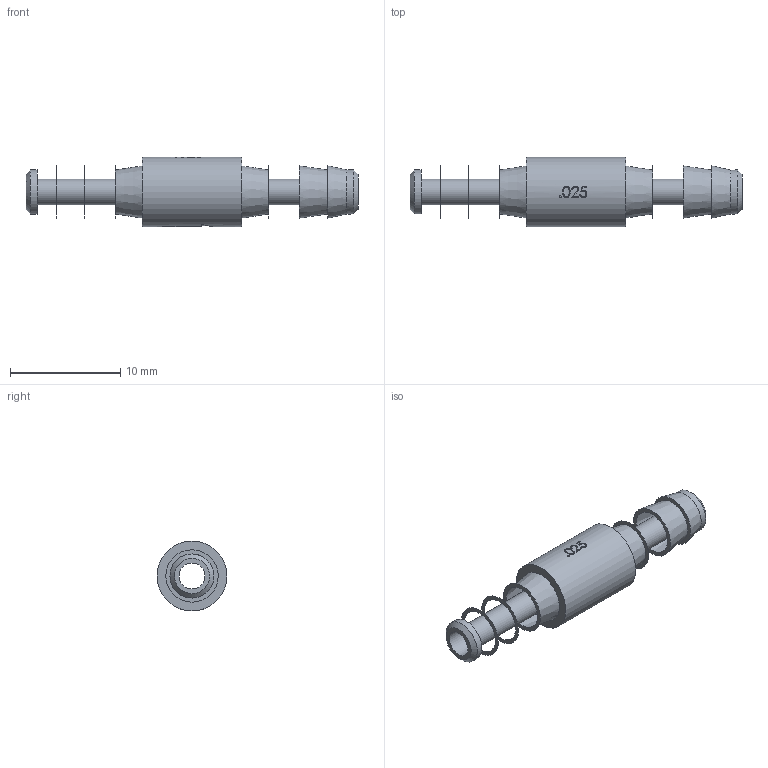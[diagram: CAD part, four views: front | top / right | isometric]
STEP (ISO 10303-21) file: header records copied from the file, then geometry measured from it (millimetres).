
FILE_DESCRIPTION(/* description */ ('SolidWorks IGES file using analytic representation for surfaces '),/* implementation_level */ '2;1');
FILE_NAME(/* name */ 'K:\Normteile INVENTOR\Air-Logic\Orifice restrictors\F-2815-251-B85.IGS.ipt.stp',/* time_stamp */ '2020-05-27T10:46:46+02:00',/* author */ ('cad'),/* organization */ (''),/* preprocessor_version */ 'ST-DEVELOPER v18',/* originating_system */ 'Autodesk Inventor 2020',/* authorisation */ '');
FILE_SCHEMA (('AUTOMOTIVE_DESIGN { 1 0 10303 214 3 1 1 }'));
Length unit declared in the file: millimetre
Products named in the file (1): F-2815-251-B85.IGS
Bounding box: 30.15 x 6.35 x 6.35 mm (x, y, z)
Volume: 464.7 mm3; surface area: 765 mm2
Topology: 1 solids, 1 shells, 76 faces, 205 edges, 144 vertices
Faces by surface type: bspline 33, plane 23, cylinder 10, cone 10
Full cylindrical faces by diameter (mm): 2.36 x1, 4 x2, 6.35 x1
Entity records: 4256 total; most frequent: CARTESIAN_POINT 2432, ORIENTED_EDGE 410, DIRECTION 289, EDGE_CURVE 205, VERTEX_POINT 144, AXIS2_PLACEMENT_3D 106, EDGE_LOOP 91, LINE 77
